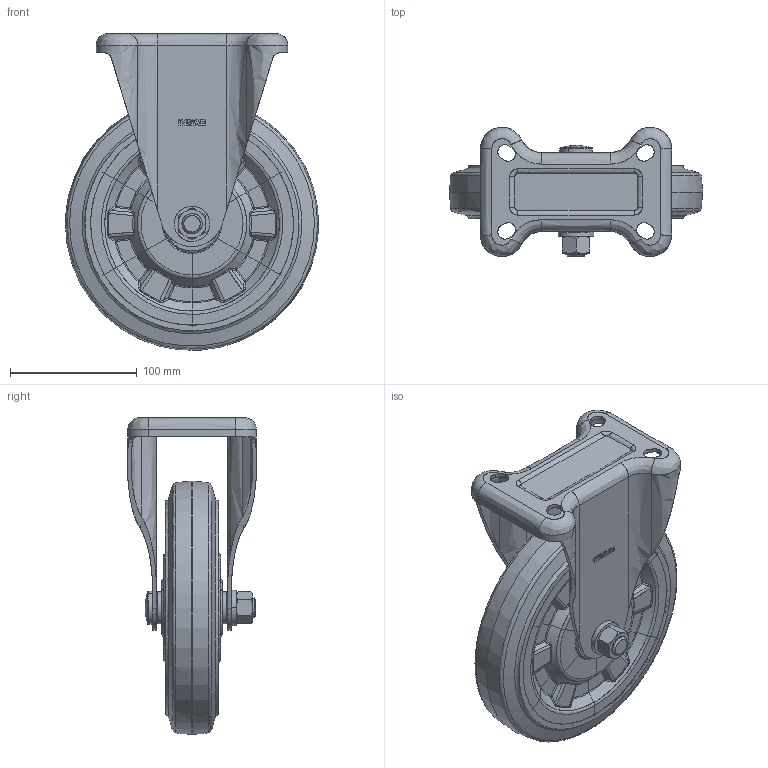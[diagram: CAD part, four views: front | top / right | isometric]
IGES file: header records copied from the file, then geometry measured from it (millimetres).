
Start section: JAMA-IS VERSION  1.0
Global section: file name: E:\tools-models\その他メーカー2\INOAC車輪\8月\GR-200WK-ALL.igs; native system: CAM-TOOL; preprocessor: C3out Version 11.1.1.50212 (2015/02/12); author: NONE; organization: NONE; date: 220824.085733; units: millimetre
Bounding box: 199.95 x 101.99 x 249.79 mm (x, y, z)
Surface area: 350991.4 mm2 (no closed solid volume)
Topology: 0 solids, 0 shells, 1366 faces, 18512 edges, 19219 vertices
Faces by surface type: bspline 1366
